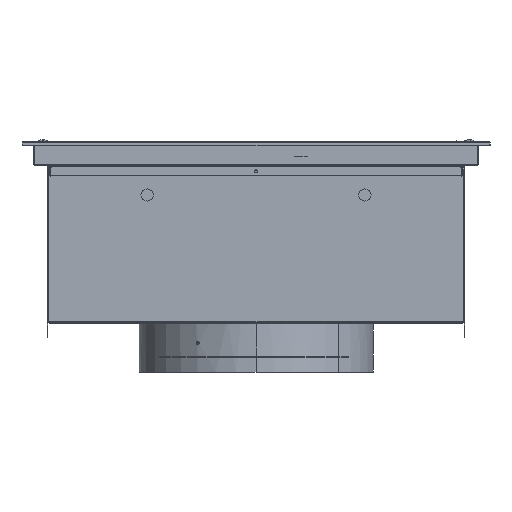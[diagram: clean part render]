
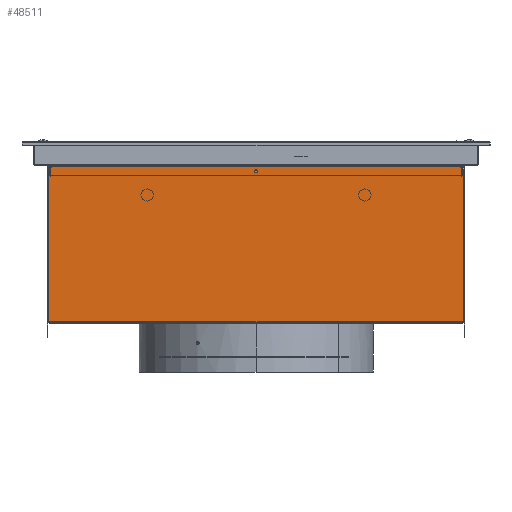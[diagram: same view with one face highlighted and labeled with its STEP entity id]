
A CAD part, left-side view. The second image highlights one B-rep face of the part: STEP entity #48511.
In plain terms, the highlighted planar face has unit normal (-1, 0, 0).
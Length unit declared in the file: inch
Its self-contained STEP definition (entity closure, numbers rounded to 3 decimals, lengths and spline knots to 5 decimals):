
#63 = CARTESIAN_POINT ( 'NONE',  ( -10.56225, 10.50725, -1.45921 ) ) ;
#928 = DIRECTION ( 'NONE',  ( 0., -1., 0. ) ) ;
#1039 = DIRECTION ( 'NONE',  ( 0., 0., -1. ) ) ;
#1694 = CARTESIAN_POINT ( 'NONE',  ( -10.56225, 0., -1.091 ) ) ;
#2065 = VERTEX_POINT ( 'NONE', #28459 ) ;
#2230 = AXIS2_PLACEMENT_3D ( 'NONE', #63, #20235, #1039 ) ;
#2917 = CARTESIAN_POINT ( 'NONE',  ( -10.56225, 0., 0. ) ) ;
#3953 = CARTESIAN_POINT ( 'NONE',  ( -10.56225, 10.52225, -1.45921 ) ) ;
#4318 = CARTESIAN_POINT ( 'NONE',  ( -10.56225, 10.52225, -9.137 ) ) ;
#4675 = ORIENTED_EDGE ( 'NONE', *, *, #36973, .F. ) ;
#4757 = ORIENTED_EDGE ( 'NONE', *, *, #63716, .T. ) ;
#5373 = LINE ( 'NONE', #15337, #51345 ) ;
#5433 = LINE ( 'NONE', #34945, #25474 ) ;
#5813 = ORIENTED_EDGE ( 'NONE', *, *, #5978, .T. ) ;
#5978 = EDGE_CURVE ( 'NONE', #51748, #41656, #5433, .T. ) ;
#7292 = CARTESIAN_POINT ( 'NONE',  ( -10.56225, 10.26604, -1.203 ) ) ;
#8265 = CARTESIAN_POINT ( 'NONE',  ( -10.56225, -0.075, -1.5046 ) ) ;
#8613 = EDGE_CURVE ( 'NONE', #34673, #50849, #62527, .T. ) ;
#8624 = VECTOR ( 'NONE', #928, 39.37008 ) ;
#8900 = CARTESIAN_POINT ( 'NONE',  ( -10.56225, 0.075, -1.5046 ) ) ;
#8921 = CARTESIAN_POINT ( 'NONE',  ( -10.56225, -10.51786, -1.44861 ) ) ;
#9071 = CARTESIAN_POINT ( 'NONE',  ( -10.56225, -0.015, -1.203 ) ) ;
#9459 = DIRECTION ( 'NONE',  ( 0., 0., -1. ) ) ;
#9684 = CARTESIAN_POINT ( 'NONE',  ( -10.56225, -10.27664, -1.20739 ) ) ;
#9987 = DIRECTION ( 'NONE',  ( -1., 0., 0. ) ) ;
#10780 = AXIS2_PLACEMENT_3D ( 'NONE', #13650, #54087, #24565 ) ;
#10795 = DIRECTION ( 'NONE',  ( 0., 0.707, -0.707 ) ) ;
#10882 = ORIENTED_EDGE ( 'NONE', *, *, #33821, .T. ) ;
#10994 = ORIENTED_EDGE ( 'NONE', *, *, #61189, .T. ) ;
#11659 = DIRECTION ( 'NONE',  ( 0., 1., 0. ) ) ;
#11868 = CIRCLE ( 'NONE', #10780, 0.075 ) ;
#11929 = DIRECTION ( 'NONE',  ( 1., 0., 0. ) ) ;
#12816 = DIRECTION ( 'NONE',  ( 0., 0., -1. ) ) ;
#13073 = CARTESIAN_POINT ( 'NONE',  ( -10.56225, -10.52225, -9.137 ) ) ;
#13650 = CARTESIAN_POINT ( 'NONE',  ( -10.56225, 0., -1.5046 ) ) ;
#14756 = CARTESIAN_POINT ( 'NONE',  ( -10.56225, -10.26604, -1.218 ) ) ;
#14841 = ORIENTED_EDGE ( 'NONE', *, *, #41769, .F. ) ;
#15208 = EDGE_CURVE ( 'NONE', #37643, #38527, #18504, .T. ) ;
#15337 = CARTESIAN_POINT ( 'NONE',  ( -10.56225, 0.075, -1.5796 ) ) ;
#15523 = CARTESIAN_POINT ( 'NONE',  ( -10.56225, 10.56225, -1.203 ) ) ;
#15878 = EDGE_CURVE ( 'NONE', #32573, #51164, #46786, .T. ) ;
#16174 = CARTESIAN_POINT ( 'NONE',  ( -10.56225, -10.50725, -1.45921 ) ) ;
#16463 = DIRECTION ( 'NONE',  ( 0., 0., 1. ) ) ;
#17783 = CARTESIAN_POINT ( 'NONE',  ( -10.56225, 10.51786, -1.44861 ) ) ;
#18434 = FACE_OUTER_BOUND ( 'NONE', #51979, .T. ) ;
#18504 = CIRCLE ( 'NONE', #58726, 0.015 ) ;
#18621 = EDGE_CURVE ( 'NONE', #23921, #37291, #37116, .T. ) ;
#18663 = DIRECTION ( 'NONE',  ( 0., 0.707, 0.707 ) ) ;
#18750 = DIRECTION ( 'NONE',  ( -1., 0., 0. ) ) ;
#20235 = DIRECTION ( 'NONE',  ( -1., 0., 0. ) ) ;
#20407 = VECTOR ( 'NONE', #11659, 39.37008 ) ;
#20759 = CARTESIAN_POINT ( 'NONE',  ( -10.56225, -10.52225, -9.137 ) ) ;
#22740 = CIRCLE ( 'NONE', #31188, 0.015 ) ;
#22921 = ORIENTED_EDGE ( 'NONE', *, *, #27801, .T. ) ;
#23921 = VERTEX_POINT ( 'NONE', #17783 ) ;
#24565 = DIRECTION ( 'NONE',  ( 0., 0., -1. ) ) ;
#25005 = CARTESIAN_POINT ( 'NONE',  ( -10.56225, 10.56225, -1.203 ) ) ;
#25256 = EDGE_CURVE ( 'NONE', #32573, #2065, #55612, .T. ) ;
#25474 = VECTOR ( 'NONE', #35915, 39.37008 ) ;
#25924 = DIRECTION ( 'NONE',  ( 0., 0., -1. ) ) ;
#26612 = DIRECTION ( 'NONE',  ( 0., 0., -1. ) ) ;
#26822 = CIRCLE ( 'NONE', #62796, 0.015 ) ;
#27752 = VECTOR ( 'NONE', #45226, 39.37008 ) ;
#27801 = EDGE_CURVE ( 'NONE', #38527, #29899, #64743, .T. ) ;
#28030 = CARTESIAN_POINT ( 'NONE',  ( -10.56225, 10.52225, -9.137 ) ) ;
#28459 = CARTESIAN_POINT ( 'NONE',  ( -10.56225, -10.26604, -1.203 ) ) ;
#29595 = CARTESIAN_POINT ( 'NONE',  ( -10.56225, -10.52225, -1.453 ) ) ;
#29899 = VERTEX_POINT ( 'NONE', #9684 ) ;
#30266 = VECTOR ( 'NONE', #10795, 39.37008 ) ;
#30272 = CARTESIAN_POINT ( 'NONE',  ( -10.56225, 10.26604, -1.218 ) ) ;
#31188 = AXIS2_PLACEMENT_3D ( 'NONE', #14756, #18750, #9459 ) ;
#31223 = DIRECTION ( 'NONE',  ( 0., 1., 0. ) ) ;
#31990 = CARTESIAN_POINT ( 'NONE',  ( -10.56225, 10.27225, -1.203 ) ) ;
#32116 = VECTOR ( 'NONE', #39781, 39.37008 ) ;
#32573 = VERTEX_POINT ( 'NONE', #9071 ) ;
#32959 = LINE ( 'NONE', #13073, #64689 ) ;
#33329 = CARTESIAN_POINT ( 'NONE',  ( -10.56225, 10.27664, -1.20739 ) ) ;
#33821 = EDGE_CURVE ( 'NONE', #50849, #51748, #11868, .T. ) ;
#34673 = VERTEX_POINT ( 'NONE', #52578 ) ;
#34945 = CARTESIAN_POINT ( 'NONE',  ( -10.56225, -0.075, -1.5796 ) ) ;
#35682 = AXIS2_PLACEMENT_3D ( 'NONE', #1694, #11929, #56676 ) ;
#35722 = VERTEX_POINT ( 'NONE', #20759 ) ;
#35915 = DIRECTION ( 'NONE',  ( 0., 0., -1. ) ) ;
#36896 = EDGE_CURVE ( 'NONE', #41990, #57307, #26822, .T. ) ;
#36973 = EDGE_CURVE ( 'NONE', #35722, #65379, #48448, .T. ) ;
#37116 = CIRCLE ( 'NONE', #2230, 0.015 ) ;
#37291 = VERTEX_POINT ( 'NONE', #3953 ) ;
#37643 = VERTEX_POINT ( 'NONE', #47307 ) ;
#38053 = ORIENTED_EDGE ( 'NONE', *, *, #54594, .F. ) ;
#38240 = DIRECTION ( 'NONE',  ( 0., 0., 1. ) ) ;
#38527 = VERTEX_POINT ( 'NONE', #8921 ) ;
#39118 = EDGE_LOOP ( 'NONE', ( #57765, #10882, #5813, #60345 ) ) ;
#39781 = DIRECTION ( 'NONE',  ( 0., 0., 1. ) ) ;
#39861 = VECTOR ( 'NONE', #16463, 39.37008 ) ;
#40745 = CARTESIAN_POINT ( 'NONE',  ( -10.56225, -0.075, -1.5796 ) ) ;
#41656 = VERTEX_POINT ( 'NONE', #40745 ) ;
#41769 = EDGE_CURVE ( 'NONE', #65379, #37291, #49728, .T. ) ;
#41990 = VERTEX_POINT ( 'NONE', #7292 ) ;
#42573 = LINE ( 'NONE', #31990, #30266 ) ;
#43118 = CIRCLE ( 'NONE', #35682, 0.113 ) ;
#43310 = DIRECTION ( 'NONE',  ( 1., 0., 0. ) ) ;
#44420 = AXIS2_PLACEMENT_3D ( 'NONE', #2917, #43310, #12816 ) ;
#45226 = DIRECTION ( 'NONE',  ( 0., -1., 0. ) ) ;
#45589 = ORIENTED_EDGE ( 'NONE', *, *, #18621, .T. ) ;
#46786 = CIRCLE ( 'NONE', #55258, 0.113 ) ;
#47307 = CARTESIAN_POINT ( 'NONE',  ( -10.56225, -10.52225, -1.45921 ) ) ;
#47961 = PLANE ( 'NONE',  #44420 ) ;
#48448 = LINE ( 'NONE', #52766, #20407 ) ;
#48511 = ADVANCED_FACE ( 'Face1', ( #57917, #18434 ), #47961, .F. ) ;
#49035 = ORIENTED_EDGE ( 'NONE', *, *, #15878, .T. ) ;
#49728 = LINE ( 'NONE', #4318, #32116 ) ;
#49855 = LINE ( 'NONE', #25005, #27752 ) ;
#49929 = EDGE_CURVE ( 'NONE', #35722, #37643, #32959, .T. ) ;
#50640 = CARTESIAN_POINT ( 'NONE',  ( -10.56225, 0.015, -1.203 ) ) ;
#50760 = VERTEX_POINT ( 'NONE', #50640 ) ;
#50849 = VERTEX_POINT ( 'NONE', #8900 ) ;
#51164 = VERTEX_POINT ( 'NONE', #52613 ) ;
#51345 = VECTOR ( 'NONE', #31223, 39.37008 ) ;
#51748 = VERTEX_POINT ( 'NONE', #8265 ) ;
#51756 = ORIENTED_EDGE ( 'NONE', *, *, #15208, .T. ) ;
#51979 = EDGE_LOOP ( 'NONE', ( #57229, #49035, #4757, #38053, #63776, #10994, #45589, #14841, #4675, #52531, #51756, #22921, #64344 ) ) ;
#52531 = ORIENTED_EDGE ( 'NONE', *, *, #49929, .T. ) ;
#52578 = CARTESIAN_POINT ( 'NONE',  ( -10.56225, 0.075, -1.5796 ) ) ;
#52613 = CARTESIAN_POINT ( 'NONE',  ( -10.56225, 0., -1.204 ) ) ;
#52766 = CARTESIAN_POINT ( 'NONE',  ( -10.56225, 10.56225, -9.137 ) ) ;
#52800 = CARTESIAN_POINT ( 'NONE',  ( -10.56225, 0., -1.091 ) ) ;
#54087 = DIRECTION ( 'NONE',  ( 1., 0., 0. ) ) ;
#54594 = EDGE_CURVE ( 'NONE', #41990, #50760, #49855, .T. ) ;
#55258 = AXIS2_PLACEMENT_3D ( 'NONE', #52800, #57774, #26612 ) ;
#55612 = LINE ( 'NONE', #15523, #8624 ) ;
#56396 = DIRECTION ( 'NONE',  ( -1., 0., 0. ) ) ;
#56609 = DIRECTION ( 'NONE',  ( 0., 0., -1. ) ) ;
#56676 = DIRECTION ( 'NONE',  ( 0., 0., -1. ) ) ;
#57229 = ORIENTED_EDGE ( 'NONE', *, *, #25256, .F. ) ;
#57307 = VERTEX_POINT ( 'NONE', #33329 ) ;
#57536 = CARTESIAN_POINT ( 'NONE',  ( -10.56225, 0.075, -1.5046 ) ) ;
#57765 = ORIENTED_EDGE ( 'NONE', *, *, #8613, .T. ) ;
#57774 = DIRECTION ( 'NONE',  ( 1., 0., 0. ) ) ;
#57917 = FACE_BOUND ( 'NONE', #39118, .T. ) ;
#58726 = AXIS2_PLACEMENT_3D ( 'NONE', #16174, #9987, #56609 ) ;
#59581 = EDGE_CURVE ( 'NONE', #29899, #2065, #22740, .T. ) ;
#59633 = VECTOR ( 'NONE', #18663, 39.37008 ) ;
#60106 = EDGE_CURVE ( 'NONE', #41656, #34673, #5373, .T. ) ;
#60345 = ORIENTED_EDGE ( 'NONE', *, *, #60106, .T. ) ;
#61189 = EDGE_CURVE ( 'NONE', #57307, #23921, #42573, .T. ) ;
#62527 = LINE ( 'NONE', #57536, #39861 ) ;
#62796 = AXIS2_PLACEMENT_3D ( 'NONE', #30272, #56396, #25924 ) ;
#63716 = EDGE_CURVE ( 'NONE', #51164, #50760, #43118, .T. ) ;
#63776 = ORIENTED_EDGE ( 'NONE', *, *, #36896, .T. ) ;
#64344 = ORIENTED_EDGE ( 'NONE', *, *, #59581, .T. ) ;
#64689 = VECTOR ( 'NONE', #38240, 39.37008 ) ;
#64743 = LINE ( 'NONE', #29595, #59633 ) ;
#65379 = VERTEX_POINT ( 'NONE', #28030 ) ;
